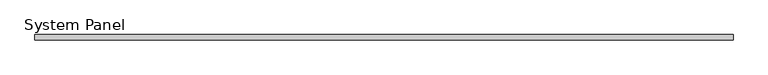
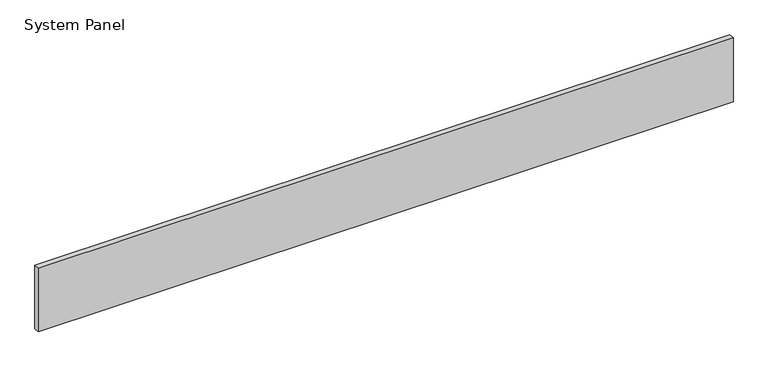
"""IFC4 building model written with IfcOpenShell, lengths in millimetres: plate geometry, System Panel : VACÍO."""

from ifc_helpers import new_model, si_unit, origin, origin_with_axes, place, context, project, spatial, polyline, outline, extrude, source, transform, mapped, element, save


def system_panel_1e98c8c1(model_context):
    return source(origin(), model_context, "Body", "SweptSolid", [
        extrude(outline(polyline([(646.0553093, -5.0), (-646.0553093, -5.0), (-646.0553093, 5.0), (646.0553093, 5.0), (646.0553093, -5.0)])), origin_with_axes(), (0.0, 0.0, 1.0), 124.8888889),
    ])


if __name__ == "__main__":
    model = new_model("IFC4")
    model_context = context("Model", 3, world=origin())
    ifc_project = project(units=[si_unit("LENGTHUNIT", "METRE", prefix="MILLI")], contexts=[model_context])
    site = spatial("IfcSite", under=ifc_project)
    building = spatial("IfcBuilding", under=site)
    placement = place(None, origin())
    system_panel_shape = system_panel_1e98c8c1(model_context)
    element("IfcPlate", 1, ObjectType="System Panel : VACÍO", at=placement, inside=building, context=model_context, shape_type="MappedRepresentation", body=[
        mapped(system_panel_shape, transform((0.0, 0.0, 0.0), x_axis=(1.0, 0.0, 0.0), y_axis=(0.0, 1.0, 0.0), z_axis=(0.0, 0.0, 1.0))),
    ])
    save(model, "model.ifc")
